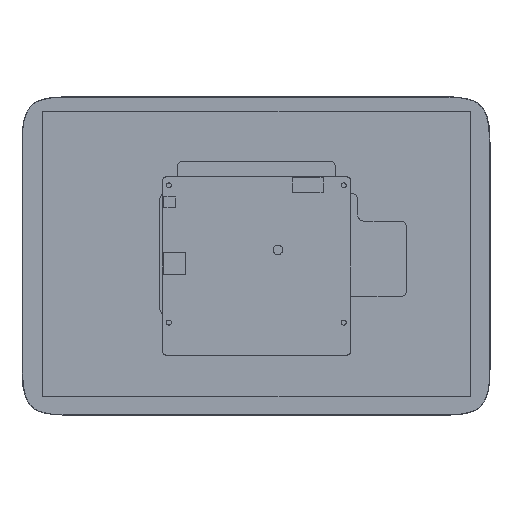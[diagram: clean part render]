
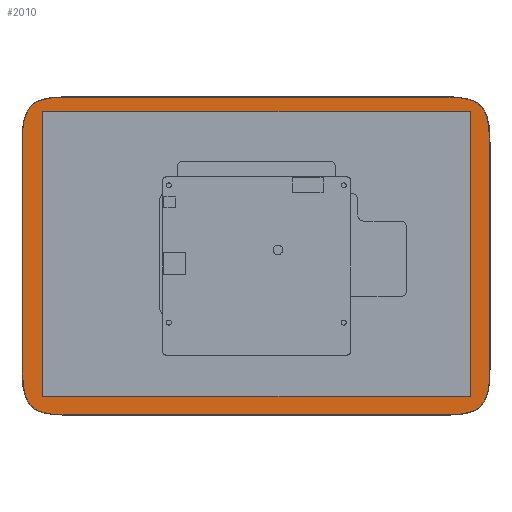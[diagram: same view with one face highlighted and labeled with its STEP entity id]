
A CAD part, top view. The second image highlights one B-rep face of the part: STEP entity #2010.
In plain terms, the highlighted planar face has unit normal (0, 0, 1).
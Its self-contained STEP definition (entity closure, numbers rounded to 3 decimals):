
#408=DIRECTION('',(-1.,0.,0.));
#409=VECTOR('',#408,251.795);
#410=CARTESIAN_POINT('',(279.471,208.818,1.5));
#411=LINE('',#410,#409);
#412=CARTESIAN_POINT('',(306.989,179.294,1.5));
#413=CARTESIAN_POINT('',(306.989,180.969,1.5));
#414=CARTESIAN_POINT('',(306.914,184.409,1.5));
#415=CARTESIAN_POINT('',(306.477,189.566,1.5));
#416=CARTESIAN_POINT('',(305.689,193.852,1.5));
#417=CARTESIAN_POINT('',(304.67,197.115,1.5));
#418=CARTESIAN_POINT('',(303.677,199.41,1.5));
#419=CARTESIAN_POINT('',(302.401,201.513,1.5));
#420=CARTESIAN_POINT('',(300.817,203.346,1.5));
#421=CARTESIAN_POINT('',(298.928,204.859,1.5));
#422=CARTESIAN_POINT('',(296.418,206.264,1.5));
#423=CARTESIAN_POINT('',(293.224,207.402,1.5));
#424=CARTESIAN_POINT('',(289.444,208.184,1.5));
#425=CARTESIAN_POINT('',(284.841,208.71,1.5));
#426=CARTESIAN_POINT('',(281.508,208.818,1.5));
#427=CARTESIAN_POINT('',(279.471,208.818,1.5));
#429=DIRECTION('',(0.,1.,0.));
#430=VECTOR('',#429,149.484);
#431=CARTESIAN_POINT('',(306.989,29.81,1.5));
#432=LINE('',#431,#430);
#433=CARTESIAN_POINT('',(279.471,0.286,1.5));
#434=CARTESIAN_POINT('',(279.571,0.286,1.5));
#435=CARTESIAN_POINT('',(281.196,0.289,1.5));
#436=CARTESIAN_POINT('',(284.333,0.377,1.5));
#437=CARTESIAN_POINT('',(288.831,0.811,1.5));
#438=CARTESIAN_POINT('',(292.486,1.528,1.5));
#439=CARTESIAN_POINT('',(295.267,2.424,1.5));
#440=CARTESIAN_POINT('',(297.23,3.278,1.5));
#441=CARTESIAN_POINT('',(299.046,4.345,1.5));
#442=CARTESIAN_POINT('',(300.674,5.647,1.5));
#443=CARTESIAN_POINT('',(302.058,7.169,1.5));
#444=CARTESIAN_POINT('',(303.211,8.874,1.5));
#445=CARTESIAN_POINT('',(304.184,10.799,1.5));
#446=CARTESIAN_POINT('',(305.325,13.824,1.5));
#447=CARTESIAN_POINT('',(306.271,18.054,1.5));
#448=CARTESIAN_POINT('',(306.879,23.71,1.5));
#449=CARTESIAN_POINT('',(306.989,27.65,1.5));
#450=CARTESIAN_POINT('',(306.989,29.81,1.5));
#452=DIRECTION('',(1.,0.,0.));
#453=VECTOR('',#452,251.795);
#454=CARTESIAN_POINT('',(27.676,0.286,1.5));
#455=LINE('',#454,#453);
#456=CARTESIAN_POINT('',(0.158,29.81,1.5));
#457=CARTESIAN_POINT('',(0.158,28.135,1.5));
#458=CARTESIAN_POINT('',(0.233,24.695,1.5));
#459=CARTESIAN_POINT('',(0.67,19.537,1.5));
#460=CARTESIAN_POINT('',(1.457,15.252,1.5));
#461=CARTESIAN_POINT('',(2.477,11.989,1.5));
#462=CARTESIAN_POINT('',(3.47,9.694,1.5));
#463=CARTESIAN_POINT('',(4.746,7.59,1.5));
#464=CARTESIAN_POINT('',(6.329,5.758,1.5));
#465=CARTESIAN_POINT('',(8.218,4.245,1.5));
#466=CARTESIAN_POINT('',(10.728,2.84,1.5));
#467=CARTESIAN_POINT('',(13.922,1.702,1.5));
#468=CARTESIAN_POINT('',(17.703,0.92,1.5));
#469=CARTESIAN_POINT('',(22.306,0.394,1.5));
#470=CARTESIAN_POINT('',(25.638,0.286,1.5));
#471=CARTESIAN_POINT('',(27.676,0.286,1.5));
#473=DIRECTION('',(0.,-1.,0.));
#474=VECTOR('',#473,149.484);
#475=CARTESIAN_POINT('',(0.158,179.294,1.5));
#476=LINE('',#475,#474);
#477=CARTESIAN_POINT('',(27.676,208.818,1.5));
#478=CARTESIAN_POINT('',(27.575,208.818,1.5));
#479=CARTESIAN_POINT('',(25.95,208.815,1.5));
#480=CARTESIAN_POINT('',(22.814,208.727,1.5));
#481=CARTESIAN_POINT('',(18.315,208.292,1.5));
#482=CARTESIAN_POINT('',(14.66,207.576,1.5));
#483=CARTESIAN_POINT('',(11.88,206.68,1.5));
#484=CARTESIAN_POINT('',(9.916,205.826,1.5));
#485=CARTESIAN_POINT('',(8.101,204.758,1.5));
#486=CARTESIAN_POINT('',(6.472,203.457,1.5));
#487=CARTESIAN_POINT('',(5.088,201.934,1.5));
#488=CARTESIAN_POINT('',(3.936,200.23,1.5));
#489=CARTESIAN_POINT('',(2.962,198.304,1.5));
#490=CARTESIAN_POINT('',(1.822,195.28,1.5));
#491=CARTESIAN_POINT('',(0.876,191.05,1.5));
#492=CARTESIAN_POINT('',(0.268,185.394,1.5));
#493=CARTESIAN_POINT('',(0.158,181.453,1.5));
#494=CARTESIAN_POINT('',(0.158,179.294,1.5));
#496=DIRECTION('',(0.,-1.,0.));
#497=VECTOR('',#496,186.811);
#498=CARTESIAN_POINT('',(13.473,199.258,1.5));
#499=LINE('',#498,#497);
#500=DIRECTION('',(1.,0.,0.));
#501=VECTOR('',#500,280.806);
#502=CARTESIAN_POINT('',(13.473,12.446,1.5));
#503=LINE('',#502,#501);
#504=DIRECTION('',(0.,1.,0.));
#505=VECTOR('',#504,186.811);
#506=CARTESIAN_POINT('',(294.279,12.446,1.5));
#507=LINE('',#506,#505);
#508=DIRECTION('',(-1.,0.,0.));
#509=VECTOR('',#508,280.806);
#510=CARTESIAN_POINT('',(294.279,199.258,1.5));
#511=LINE('',#510,#509);
#1210=CARTESIAN_POINT('',(279.471,208.818,1.5));
#1211=CARTESIAN_POINT('',(27.676,208.818,1.5));
#1212=VERTEX_POINT('',#1210);
#1213=VERTEX_POINT('',#1211);
#1214=VERTEX_POINT('',#494);
#1215=CARTESIAN_POINT('',(0.158,29.81,1.5));
#1216=VERTEX_POINT('',#1215);
#1217=VERTEX_POINT('',#471);
#1218=CARTESIAN_POINT('',(279.471,0.286,1.5));
#1219=VERTEX_POINT('',#1218);
#1220=VERTEX_POINT('',#450);
#1221=CARTESIAN_POINT('',(306.989,179.294,1.5));
#1222=VERTEX_POINT('',#1221);
#1244=CARTESIAN_POINT('',(13.473,199.258,1.5));
#1245=CARTESIAN_POINT('',(13.473,12.446,1.5));
#1246=VERTEX_POINT('',#1244);
#1247=VERTEX_POINT('',#1245);
#1248=CARTESIAN_POINT('',(294.279,12.446,1.5));
#1249=VERTEX_POINT('',#1248);
#1250=CARTESIAN_POINT('',(294.279,199.258,1.5));
#1251=VERTEX_POINT('',#1250);
#1985=CARTESIAN_POINT('',(0.,0.,1.5));
#1986=DIRECTION('',(0.,0.,1.));
#1987=DIRECTION('',(1.,0.,0.));
#1988=AXIS2_PLACEMENT_3D('',#1985,#1986,#1987);
#1989=PLANE('',#1988);
#1990=ORIENTED_EDGE('',*,*,#1809,.F.);
#1991=ORIENTED_EDGE('',*,*,#1841,.F.);
#1992=ORIENTED_EDGE('',*,*,#1855,.F.);
#1993=ORIENTED_EDGE('',*,*,#1888,.F.);
#1994=ORIENTED_EDGE('',*,*,#1902,.F.);
#1995=ORIENTED_EDGE('',*,*,#1933,.F.);
#1996=ORIENTED_EDGE('',*,*,#1947,.F.);
#1997=ORIENTED_EDGE('',*,*,#1979,.F.);
#1998=EDGE_LOOP('',(#1990,#1991,#1992,#1993,#1994,#1995,#1996,#1997));
#1999=FACE_OUTER_BOUND('',#1998,.F.);
#2001=ORIENTED_EDGE('',*,*,#2000,.T.);
#2003=ORIENTED_EDGE('',*,*,#2002,.T.);
#2005=ORIENTED_EDGE('',*,*,#2004,.T.);
#2007=ORIENTED_EDGE('',*,*,#2006,.T.);
#2008=EDGE_LOOP('',(#2001,#2003,#2005,#2007));
#2009=FACE_BOUND('',#2008,.F.);
#428=B_SPLINE_CURVE_WITH_KNOTS('',3,(#412,#413,#414,#415,#416,#417,#418,#419,
#420,#421,#422,#423,#424,#425,#426,#427),.UNSPECIFIED.,.F.,.F.,(4,1,1,1,1,1,1,1,
1,1,1,1,1,4),(0.,0.105,0.215,0.324,
0.377,0.429,0.48,0.531,
0.58,0.631,0.71,0.791,
0.872,1.),.UNSPECIFIED.);
#451=B_SPLINE_CURVE_WITH_KNOTS('',3,(#433,#434,#435,#436,#437,#438,#439,#440,
#441,#442,#443,#444,#445,#446,#447,#448,#449,#450),.UNSPECIFIED.,.F.,.F.,(4,1,1,
1,1,1,1,1,1,1,1,1,1,1,1,4),(0.,0.006,0.102,
0.196,0.289,0.334,0.379,
0.423,0.466,0.509,0.551,
0.594,0.644,0.753,0.865,1.),
.UNSPECIFIED.);
#472=B_SPLINE_CURVE_WITH_KNOTS('',3,(#456,#457,#458,#459,#460,#461,#462,#463,
#464,#465,#466,#467,#468,#469,#470,#471),.UNSPECIFIED.,.F.,.F.,(4,1,1,1,1,1,1,1,
1,1,1,1,1,4),(0.,0.105,0.215,0.324,
0.377,0.429,0.48,0.531,
0.58,0.631,0.71,0.791,
0.872,1.),.UNSPECIFIED.);
#495=B_SPLINE_CURVE_WITH_KNOTS('',3,(#477,#478,#479,#480,#481,#482,#483,#484,
#485,#486,#487,#488,#489,#490,#491,#492,#493,#494),.UNSPECIFIED.,.F.,.F.,(4,1,1,
1,1,1,1,1,1,1,1,1,1,1,1,4),(0.,0.006,0.102,
0.196,0.289,0.334,0.379,
0.423,0.466,0.509,0.551,
0.594,0.644,0.753,0.865,1.),
.UNSPECIFIED.);
#1809=EDGE_CURVE('',#1212,#1213,#411,.T.);
#1841=EDGE_CURVE('',#1222,#1212,#428,.T.);
#1855=EDGE_CURVE('',#1220,#1222,#432,.T.);
#1888=EDGE_CURVE('',#1219,#1220,#451,.T.);
#1902=EDGE_CURVE('',#1217,#1219,#455,.T.);
#1933=EDGE_CURVE('',#1216,#1217,#472,.T.);
#1947=EDGE_CURVE('',#1214,#1216,#476,.T.);
#1979=EDGE_CURVE('',#1213,#1214,#495,.T.);
#2000=EDGE_CURVE('',#1246,#1247,#499,.T.);
#2002=EDGE_CURVE('',#1247,#1249,#503,.T.);
#2004=EDGE_CURVE('',#1249,#1251,#507,.T.);
#2006=EDGE_CURVE('',#1251,#1246,#511,.T.);
#2010=ADVANCED_FACE('',(#1999,#2009),#1989,.T.);
